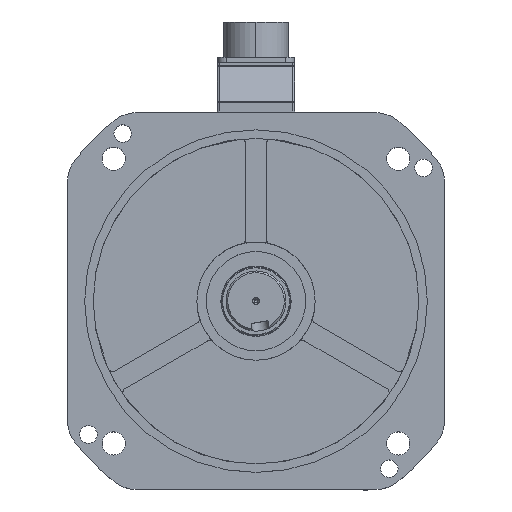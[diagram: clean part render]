
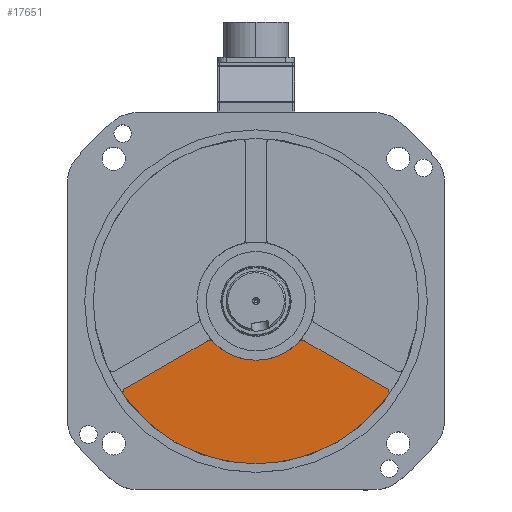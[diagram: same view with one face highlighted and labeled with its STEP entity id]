
A CAD part, top view. The second image highlights one B-rep face of the part: STEP entity #17651.
In plain terms, the highlighted planar face has unit normal (0, 0, 1).
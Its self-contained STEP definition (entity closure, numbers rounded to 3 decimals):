
#942 = DIRECTION ( 'NONE',  ( 0., 0., 1. ) ) ;
#1952 = CARTESIAN_POINT ( 'NONE',  ( 76.292, 50.976, 16. ) ) ;
#3413 = EDGE_CURVE ( 'NONE', #19131, #67727, #44623, .T. ) ;
#4678 = DIRECTION ( 'NONE',  ( 1., 0., 0. ) ) ;
#6179 = DIRECTION ( 'NONE',  ( 1., 0., 0. ) ) ;
#7814 = LINE ( 'NONE', #51053, #49989 ) ;
#8450 = EDGE_CURVE ( 'NONE', #27770, #34946, #26976, .T. ) ;
#8658 = ORIENTED_EDGE ( 'NONE', *, *, #17318, .T. ) ;
#11169 = CARTESIAN_POINT ( 'NONE',  ( -24.865, 23.917, 16. ) ) ;
#11730 = CARTESIAN_POINT ( 'NONE',  ( -28.527, 23.398, 16. ) ) ;
#12513 = AXIS2_PLACEMENT_3D ( 'NONE', #27066, #32651, #33677 ) ;
#12939 = DIRECTION ( 'NONE',  ( 1., 0., 0. ) ) ;
#12940 = EDGE_CURVE ( 'NONE', #27770, #24423, #32068, .T. ) ;
#14231 = DIRECTION ( 'NONE',  ( 0., 0., 1. ) ) ;
#17318 = EDGE_CURVE ( 'NONE', #24423, #38792, #42425, .T. ) ;
#17400 = DIRECTION ( 'NONE',  ( 0., 0., 1. ) ) ;
#17651 = ADVANCED_FACE ( 'NONE', ( #53463 ), #31837, .T. ) ;
#17953 = ORIENTED_EDGE ( 'NONE', *, *, #3413, .T. ) ;
#18027 = ORIENTED_EDGE ( 'NONE', *, *, #33814, .T. ) ;
#18071 = AXIS2_PLACEMENT_3D ( 'NONE', #43932, #17400, #38684 ) ;
#18267 = EDGE_CURVE ( 'NONE', #19131, #44464, #48179, .T. ) ;
#18545 = ORIENTED_EDGE ( 'NONE', *, *, #18267, .F. ) ;
#19131 = VERTEX_POINT ( 'NONE', #27704 ) ;
#19615 = DIRECTION ( 'NONE',  ( 1., 0., 0. ) ) ;
#20150 = DIRECTION ( 'NONE',  ( 1., 0., 0. ) ) ;
#20235 = EDGE_CURVE ( 'NONE', #67727, #43775, #7814, .T. ) ;
#21362 = AXIS2_PLACEMENT_3D ( 'NONE', #53123, #52446, #4678 ) ;
#23746 = CARTESIAN_POINT ( 'NONE',  ( -77.792, 53.574, 16. ) ) ;
#24423 = VERTEX_POINT ( 'NONE', #23746 ) ;
#24657 = EDGE_CURVE ( 'NONE', #48971, #38792, #64168, .T. ) ;
#26831 = AXIS2_PLACEMENT_3D ( 'NONE', #51223, #14231, #20150 ) ;
#26976 = CIRCLE ( 'NONE', #12513, 95. ) ;
#27066 = CARTESIAN_POINT ( 'NONE',  ( 0., 0., 16. ) ) ;
#27375 = ORIENTED_EDGE ( 'NONE', *, *, #62395, .T. ) ;
#27704 = CARTESIAN_POINT ( 'NONE',  ( 24.865, 23.917, 16. ) ) ;
#27770 = VERTEX_POINT ( 'NONE', #37173 ) ;
#28145 = ORIENTED_EDGE ( 'NONE', *, *, #20235, .T. ) ;
#31306 = CARTESIAN_POINT ( 'NONE',  ( -27.027, 25.996, 16. ) ) ;
#31837 = PLANE ( 'NONE',  #21362 ) ;
#32068 = CIRCLE ( 'NONE', #44310, 3. ) ;
#32102 = AXIS2_PLACEMENT_3D ( 'NONE', #60024, #33168, #12939 ) ;
#32651 = DIRECTION ( 'NONE',  ( 0., 0., -1. ) ) ;
#33168 = DIRECTION ( 'NONE',  ( 0., 0., 1. ) ) ;
#33409 = AXIS2_PLACEMENT_3D ( 'NONE', #31306, #942, #6179 ) ;
#33677 = DIRECTION ( 'NONE',  ( 1., 0., 0. ) ) ;
#33814 = EDGE_CURVE ( 'NONE', #48971, #44464, #63501, .T. ) ;
#33950 = DIRECTION ( 'NONE',  ( 0.866, 0.5, 0. ) ) ;
#34946 = VERTEX_POINT ( 'NONE', #49076 ) ;
#34997 = CARTESIAN_POINT ( 'NONE',  ( -74.792, 53.574, 16. ) ) ;
#35309 = EDGE_LOOP ( 'NONE', ( #27375, #40678, #57373, #8658, #45205, #18027, #18545, #17953, #28145 ) ) ;
#36837 = VECTOR ( 'NONE', #53723, 1000. ) ;
#37173 = CARTESIAN_POINT ( 'NONE',  ( -77.231, 55.321, 16. ) ) ;
#38684 = DIRECTION ( 'NONE',  ( 1., 0., 0. ) ) ;
#38792 = VERTEX_POINT ( 'NONE', #39277 ) ;
#39277 = CARTESIAN_POINT ( 'NONE',  ( -76.292, 50.976, 16. ) ) ;
#40628 = DIRECTION ( 'NONE',  ( 1., 0., 0. ) ) ;
#40678 = ORIENTED_EDGE ( 'NONE', *, *, #8450, .F. ) ;
#41330 = DIRECTION ( 'NONE',  ( 0., 0., 1. ) ) ;
#42425 = CIRCLE ( 'NONE', #26831, 3. ) ;
#43775 = VERTEX_POINT ( 'NONE', #1952 ) ;
#43932 = CARTESIAN_POINT ( 'NONE',  ( 0., 0., 16. ) ) ;
#44310 = AXIS2_PLACEMENT_3D ( 'NONE', #34997, #51737, #19615 ) ;
#44464 = VERTEX_POINT ( 'NONE', #11169 ) ;
#44623 = CIRCLE ( 'NONE', #50204, 3. ) ;
#45205 = ORIENTED_EDGE ( 'NONE', *, *, #24657, .F. ) ;
#48179 = CIRCLE ( 'NONE', #18071, 34.5 ) ;
#48318 = CARTESIAN_POINT ( 'NONE',  ( 28.527, 23.398, 16. ) ) ;
#48971 = VERTEX_POINT ( 'NONE', #11730 ) ;
#49076 = CARTESIAN_POINT ( 'NONE',  ( 77.231, 55.321, 16. ) ) ;
#49989 = VECTOR ( 'NONE', #33950, 1000. ) ;
#50204 = AXIS2_PLACEMENT_3D ( 'NONE', #67493, #41330, #40628 ) ;
#51053 = CARTESIAN_POINT ( 'NONE',  ( -3., 5.196, 16. ) ) ;
#51223 = CARTESIAN_POINT ( 'NONE',  ( -74.792, 53.574, 16. ) ) ;
#51737 = DIRECTION ( 'NONE',  ( 0., 0., 1. ) ) ;
#52446 = DIRECTION ( 'NONE',  ( 0., 0., 1. ) ) ;
#53123 = CARTESIAN_POINT ( 'NONE',  ( 0., 0., 16. ) ) ;
#53463 = FACE_OUTER_BOUND ( 'NONE', #35309, .T. ) ;
#53723 = DIRECTION ( 'NONE',  ( -0.866, 0.5, 0. ) ) ;
#54386 = CARTESIAN_POINT ( 'NONE',  ( 3., 5.196, 16. ) ) ;
#57373 = ORIENTED_EDGE ( 'NONE', *, *, #12940, .T. ) ;
#60024 = CARTESIAN_POINT ( 'NONE',  ( 74.792, 53.574, 16. ) ) ;
#62169 = CIRCLE ( 'NONE', #32102, 3. ) ;
#62395 = EDGE_CURVE ( 'NONE', #43775, #34946, #62169, .T. ) ;
#63501 = CIRCLE ( 'NONE', #33409, 3. ) ;
#64168 = LINE ( 'NONE', #54386, #36837 ) ;
#67493 = CARTESIAN_POINT ( 'NONE',  ( 27.027, 25.996, 16. ) ) ;
#67727 = VERTEX_POINT ( 'NONE', #48318 ) ;
